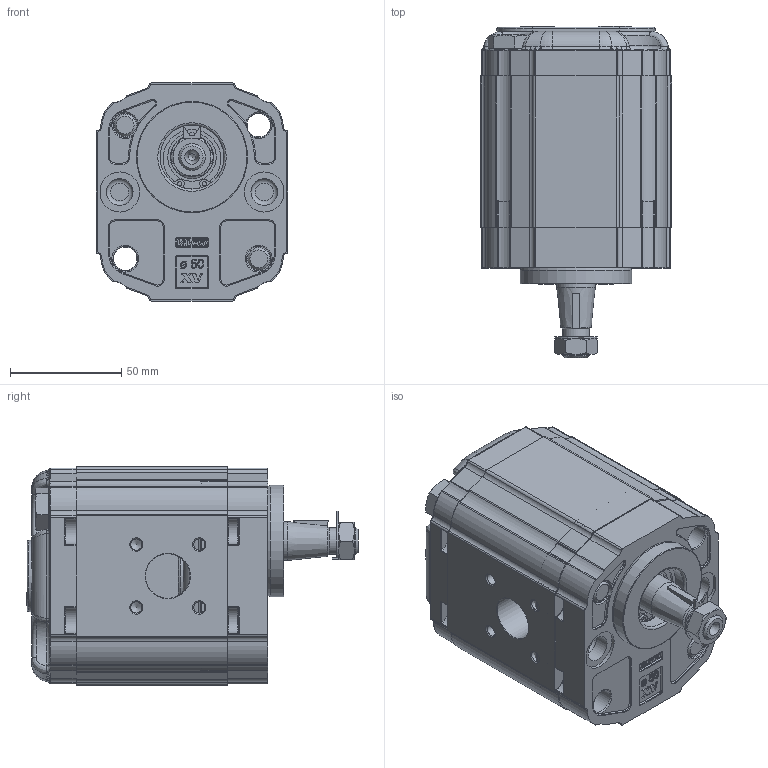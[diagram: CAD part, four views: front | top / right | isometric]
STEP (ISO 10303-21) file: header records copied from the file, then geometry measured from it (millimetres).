
FILE_DESCRIPTION( ( 'Unknown' ), '1' );
FILE_NAME( 'P:/montaggio_easy/output/STP/X2P5112FSRA.stp', 'Unknown', ( 'Unknown' ), ( 'Unknown' ), 'PSStep 14.0', 'Unknown', ' ' );
FILE_SCHEMA( ( 'AUTOMOTIVE_DESIGN { 1 0 10303 214 1 1 1 1 }' ) );
Length unit declared in the file: millimetre
Products named in the file (5): Assem1; X2P12; 2F; X2SRH68; XP210-A
Bounding box: 86 x 149.15 x 98 mm (x, y, z)
Surface area: 213756 mm2
Topology: 8 solids, 14 shells, 3544 faces, 9184 edges, 5934 vertices
Faces by surface type: plane 1778, cylinder 898, extrusion 388, torus 238, bspline 126, cone 116
Full cylindrical faces by diameter (mm): 2 x4, 5 x16, 8.5 x4, 10.5 x12, 11 x8, 12 x8, 12.5 x2, 15 x2, 16 x4, 17.42 x2, 17.48 x4, 18.724 x2, 20 x2, 20.595 x2, 21.741 x2, 25.834 x2, 28.56 x2, 28.57 x2, 28.8 x2, 30.5 x2, 50 x2
Entity records: 74373 total; most frequent: CARTESIAN_POINT 17435, ORIENTED_EDGE 8922, DIRECTION 8484, EDGE_CURVE 4461, VERTEX_POINT 2934, VECTOR 2922, AXIS2_PLACEMENT_3D 2781, LINE 2728
